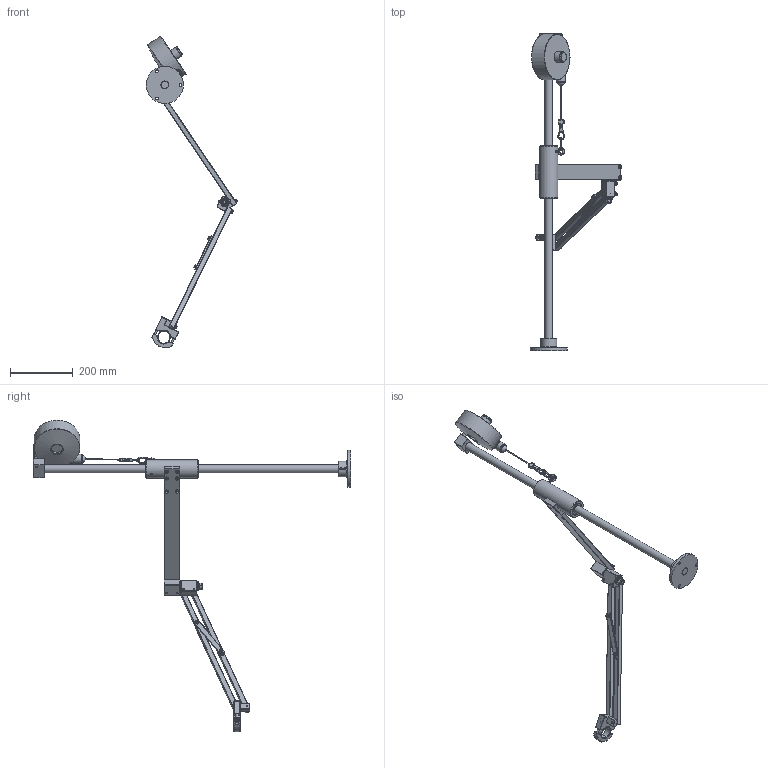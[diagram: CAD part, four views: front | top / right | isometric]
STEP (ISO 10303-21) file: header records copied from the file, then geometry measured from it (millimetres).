
FILE_DESCRIPTION( ( 'Unknown' ), '1' );
FILE_NAME( 'D:/dogabe/Industrie/Industrie 2005/05-01-2689 DOGA/4-1200276_bras BA 40 R_800_3D/4-1200276_bras BA 40 R_800.stp', 'Unknown', ( 'Unknown' ), ( 'Unknown' ), 'PSStep 14.0', 'Unknown', ' ' );
FILE_SCHEMA( ( 'AUTOMOTIVE_DESIGN { 1 0 10303 214 1 1 1 1 }' ) );
Length unit declared in the file: millimetre
Products named in the file (52): Asm avant bras BA40R-22.5  rallonge 800; H M12 Nyl; Règle immobilisatrice; 16 Z; Butée à aiguilles AXK1226; 12 M; 12 M-oa7; Pivot 1 BA40R; Roulement à aiguilles HK1612; Roulement à aiguilles HK1612-oa8; CHC M6x20; CHC M6x20-oa9; CHC M6x30-oa10; CHC M6x30-oa11; CHC M6x30-oa12; CHC M6x30-oa13; Carré supérieur BA40R rallonge 800; Carré inférieur BA40R rallonge 800; Asm mat BA40; Vis HC M8x12 à bout plat; Vis HC M8x12 à bout plat-oa0; Pied BA40R; Axe mat BA40R; Pince BA40R; pince BA40R; CHC M6x45 fileté sous tete; CHC M6x45 fileté sous tete-oa2; Collier; Placement'; Asm arrière bras BA40R rallonge 800; Piton M6; Fourreau BA40; Pivot 2 BA40R; CHC M6x30; Axe 16 BA40R; Douille KB25; Douille KB25-oa3; FHC M6x20; FHC M6x20-oa4; FHC M6x20-oa5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
Assembly tree (52 placements, depth 3):
  Assem1
    Cable
    Asm mat BA40
      Vis HC M8x12 à bout plat
      Vis HC M8x12 à bout plat-oa0
      Pied BA40R
      Axe mat BA40R
    Asm Equilibreur BA40
      CHC M8x50
      Equilibreur 4-6 Kg
      Entretoise
      Entretoise-oa1
      Vis HC M4x8 à téton
      Support equilibreur
      Bague
    Pince BA40R
      pince BA40R
      CHC M6x45 fileté sous tete
      CHC M6x45 fileté sous tete-oa2
      Collier
      Placement'
    Asm arrière bras BA40R rallonge 800
      Piton M6
      Fourreau BA40
      Pivot 2 BA40R
      CHC M6x30  x2
      Axe 16 BA40R
      Douille KB25
      Douille KB25-oa3
      FHC M6x20
      FHC M6x20-oa4
      FHC M6x20-oa5
      FHC M6x20-oa6
      Plaque support BA40R ralloge 800
    Asm avant bras BA40R-22.5  rallonge 800
      H M12 Nyl
      Règle immobilisatrice
      16 Z
      Butée à aiguilles AXK1226
      12 M
      12 M-oa7
      Pivot 1 BA40R
      Roulement à aiguilles HK1612
      Roulement à aiguilles HK1612-oa8
      CHC M6x20
      CHC M6x20-oa9
      CHC M6x30-oa10
      CHC M6x30-oa11
      CHC M6x30-oa12
      CHC M6x30-oa13
      Carré supérieur BA40R rallonge 800
      Carré inférieur BA40R rallonge 800
Bounding box: 290.65 x 1008.78 x 989.83 mm (x, y, z)
Volume: 2776835.4 mm3; surface area: 491560.9 mm2
Topology: 47 solids, 47 shells, 1063 faces, 2398 edges, 1478 vertices
Faces by surface type: plane 611, cylinder 326, cone 72, torus 38, sphere 9, bspline 7
Full cylindrical faces by diameter (mm): 2 x1, 2.5 x3, 3.3 x1, 4 x1, 5 x18, 5.8 x14, 6 x27, 6.2 x2, 6.5 x2, 6.8 x3, 7 x1, 7.8 x1, 8 x3, 8.5 x5, 9 x2, 10 x11, 10.2 x1, 12 x4, 13 x3, 16 x5, 17.785 x1, 22 x3, 25 x5, 26 x2, 27 x2, 28 x2, 28.5 x1, 30 x2, 35 x2, 38 x1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
Entity records: 38709 total; most frequent: CARTESIAN_POINT 7741, DIRECTION 4652, ORIENTED_EDGE 4022, EDGE_CURVE 2011, AXIS2_PLACEMENT_3D 1768, EDGE_LOOP 1445, VERTEX_POINT 1347, FACE_OUTER_BOUND 1197
